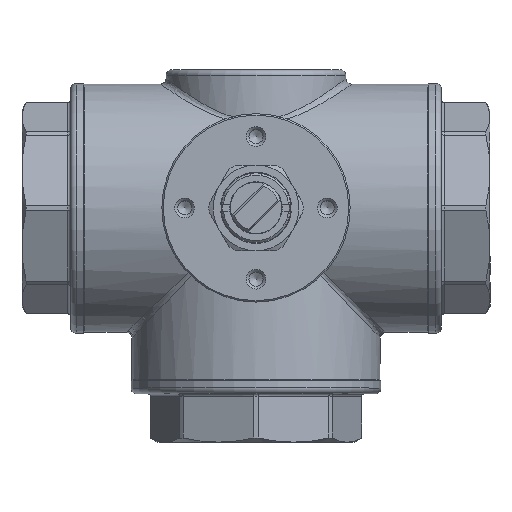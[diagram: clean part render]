
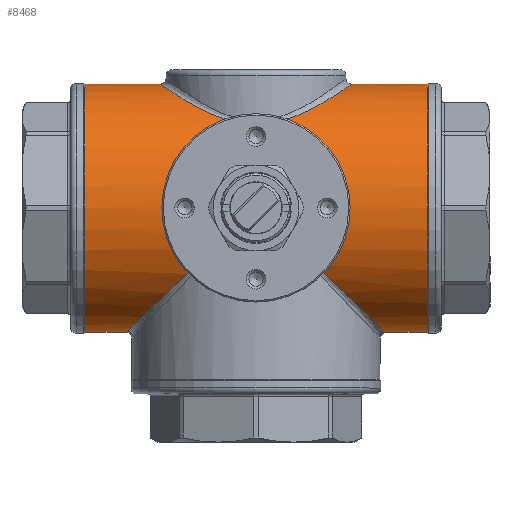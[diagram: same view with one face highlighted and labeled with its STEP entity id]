
A CAD part, top view. The second image highlights one B-rep face of the part: STEP entity #8468.
In plain terms, the highlighted cylindrical face has radius 43.5 mm (diameter 87 mm), a full revolution.
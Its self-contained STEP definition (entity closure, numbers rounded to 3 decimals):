
#8123=CARTESIAN_POINT('',(15.013,-14.353,41.064));
#8124=VERTEX_POINT('',#8123);
#8164=CARTESIAN_POINT('',(-15.013,-14.353,41.064));
#8165=VERTEX_POINT('',#8164);
#8272=CARTESIAN_POINT('',(15.013,-14.353,41.064));
#8273=CARTESIAN_POINT('',(16.622,-12.745,41.626));
#8274=CARTESIAN_POINT('',(19.342,-8.95,42.733));
#8275=CARTESIAN_POINT('',(21.286,-2.201,43.634));
#8276=CARTESIAN_POINT('',(20.821,4.862,43.414));
#8277=CARTESIAN_POINT('',(17.692,12.005,42.012));
#8278=CARTESIAN_POINT('',(12.656,16.863,40.165));
#8279=CARTESIAN_POINT('',(5.626,20.199,38.551));
#8280=CARTESIAN_POINT('',(-0.838,20.925,38.135));
#8281=CARTESIAN_POINT('',(-7.795,19.354,38.977));
#8282=CARTESIAN_POINT('',(-13.301,16.37,40.388));
#8283=CARTESIAN_POINT('',(-18.009,11.276,42.158));
#8284=CARTESIAN_POINT('',(-20.819,4.869,43.41));
#8285=CARTESIAN_POINT('',(-21.289,-2.201,43.637));
#8286=CARTESIAN_POINT('',(-19.338,-8.955,42.731));
#8287=CARTESIAN_POINT('',(-16.622,-12.745,41.626));
#8288=CARTESIAN_POINT('',(-15.013,-14.353,41.064));
#8289=B_SPLINE_CURVE_WITH_KNOTS('',3,(#8272,#8273,#8274,#8275,#8276,#8277,#8278,#8279,#8280,#8281,#8282,#8283,#8284,#8285,#8286,#8287,#8288),.UNSPECIFIED.,.F.,.U.,(4,1,1,1,1,1,1,1,1,1,1,1,1,1,4),(-9.963,-9.251,-8.539,-7.828,-7.116,-6.167,-5.693,-4.744,-4.27,-3.558,-2.846,-2.135,-1.423,-0.712,0.),.UNSPECIFIED.);
#8290=EDGE_CURVE('',#8124,#8165,#8289,.T.);
#8349=CARTESIAN_POINT('',(0.0,0.0,-43.5));
#8350=VERTEX_POINT('',#8349);
#8358=CARTESIAN_POINT('',(0.0,0.0,0.0));
#8359=DIRECTION('',(-0.691,-0.723,0.0));
#8360=DIRECTION('',(0.723,-0.691,0.0));
#8361=AXIS2_PLACEMENT_3D('',#8358,#8359,#8360);
#8362=ELLIPSE('',#8361,62.948,43.5);
#8363=EDGE_CURVE('',#8350,#8124,#8362,.T.);
#8396=CARTESIAN_POINT('',(0.0,0.0,0.0));
#8397=DIRECTION('',(1.0,0.0,0.0));
#8398=DIRECTION('',(0.0,-1.0,0.0));
#8399=AXIS2_PLACEMENT_3D('',#8396,#8397,#8398);
#8400=CYLINDRICAL_SURFACE('',#8399,43.5);
#8401=ORIENTED_EDGE('',*,*,#8290,.F.);
#8402=ORIENTED_EDGE('',*,*,#8363,.F.);
#8403=CARTESIAN_POINT('',(0.0,0.0,0.0));
#8404=DIRECTION('',(0.691,-0.723,0.0));
#8405=DIRECTION('',(-0.723,-0.691,0.0));
#8406=AXIS2_PLACEMENT_3D('',#8403,#8404,#8405);
#8407=ELLIPSE('',#8406,62.948,43.5);
#8408=EDGE_CURVE('',#8165,#8350,#8407,.T.);
#8409=ORIENTED_EDGE('',*,*,#8408,.F.);
#8410=EDGE_LOOP('',(#8401,#8402,#8409));
#8411=FACE_OUTER_BOUND('',#8410,.T.);
#8412=CARTESIAN_POINT('',(0.,29.436,32.027));
#8413=VERTEX_POINT('',#8412);
#8414=CARTESIAN_POINT('',(-0.001,29.434,32.029));
#8415=CARTESIAN_POINT('',(2.612,29.434,32.029));
#8416=CARTESIAN_POINT('',(7.842,30.109,31.424));
#8417=CARTESIAN_POINT('',(14.894,32.538,28.974));
#8418=CARTESIAN_POINT('',(21.054,35.569,25.229));
#8419=CARTESIAN_POINT('',(26.776,38.945,19.812));
#8420=CARTESIAN_POINT('',(31.486,42.08,12.306));
#8421=CARTESIAN_POINT('',(33.953,43.822,2.553));
#8422=CARTESIAN_POINT('',(33.102,43.215,-7.593));
#8423=CARTESIAN_POINT('',(29.181,40.505,-16.67));
#8424=CARTESIAN_POINT('',(22.958,36.592,-23.916));
#8425=CARTESIAN_POINT('',(15.004,32.459,-29.139));
#8426=CARTESIAN_POINT('',(6.969,29.868,-31.634));
#8427=CARTESIAN_POINT('',(-0.012,29.291,-32.159));
#8428=CARTESIAN_POINT('',(-6.985,29.872,-31.631));
#8429=CARTESIAN_POINT('',(-15.041,32.473,-29.127));
#8430=CARTESIAN_POINT('',(-22.999,36.616,-23.878));
#8431=CARTESIAN_POINT('',(-29.198,40.516,-16.643));
#8432=CARTESIAN_POINT('',(-32.777,42.991,-8.327));
#8433=CARTESIAN_POINT('',(-33.812,43.719,0.005));
#8434=CARTESIAN_POINT('',(-32.564,42.844,10.019));
#8435=CARTESIAN_POINT('',(-27.897,39.609,18.784));
#8436=CARTESIAN_POINT('',(-21.016,35.546,25.249));
#8437=CARTESIAN_POINT('',(-14.879,32.533,28.983));
#8438=CARTESIAN_POINT('',(-7.833,30.107,31.425));
#8439=CARTESIAN_POINT('',(-2.614,29.434,32.029));
#8440=CARTESIAN_POINT('',(-0.001,29.434,32.029));
#8441=B_SPLINE_CURVE_WITH_KNOTS('',3,(#8414,#8415,#8416,#8417,#8418,#8419,#8420,#8421,#8422,#8423,#8424,#8425,#8426,#8427,#8428,#8429,#8430,#8431,#8432,#8433,#8434,#8435,#8436,#8437,#8438,#8439,#8440),.UNSPECIFIED.,.T.,.U.,(4,1,1,1,1,1,1,1,1,1,1,1,1,1,1,1,1,1,1,1,1,1,1,1,4),(-19.981,-19.268,-18.554,-17.841,-17.127,-16.175,-15.224,-14.272,-13.321,-12.369,-11.418,-10.466,-9.991,-9.515,-8.563,-7.612,-6.66,-5.709,-4.995,-4.282,-2.854,-2.141,-1.427,-0.714,0.0),.UNSPECIFIED.);
#8442=EDGE_CURVE('',#8413,#8413,#8441,.T.);
#8443=ORIENTED_EDGE('',*,*,#8442,.F.);
#8444=EDGE_LOOP('',(#8443));
#8445=FACE_BOUND('',#8444,.T.);
#8446=CARTESIAN_POINT('',(-60.0,43.5,0.));
#8447=VERTEX_POINT('',#8446);
#8448=CARTESIAN_POINT('',(-60.0,0.0,0.0));
#8449=DIRECTION('',(-1.0,0.0,0.0));
#8450=DIRECTION('',(0.0,-1.0,0.0));
#8451=AXIS2_PLACEMENT_3D('',#8448,#8449,#8450);
#8452=CIRCLE('',#8451,43.5);
#8453=EDGE_CURVE('',#8447,#8447,#8452,.T.);
#8454=ORIENTED_EDGE('',*,*,#8453,.F.);
#8455=EDGE_LOOP('',(#8454));
#8456=FACE_BOUND('',#8455,.T.);
#8457=CARTESIAN_POINT('',(60.0,43.5,0.));
#8458=VERTEX_POINT('',#8457);
#8459=CARTESIAN_POINT('',(60.0,0.0,0.0));
#8460=DIRECTION('',(1.0,0.0,0.0));
#8461=DIRECTION('',(0.0,-1.0,0.0));
#8462=AXIS2_PLACEMENT_3D('',#8459,#8460,#8461);
#8463=CIRCLE('',#8462,43.5);
#8464=EDGE_CURVE('',#8458,#8458,#8463,.T.);
#8465=ORIENTED_EDGE('',*,*,#8464,.F.);
#8466=EDGE_LOOP('',(#8465));
#8467=FACE_BOUND('',#8466,.T.);
#8468=ADVANCED_FACE('',(#8411,#8445,#8456,#8467),#8400,.T.);
